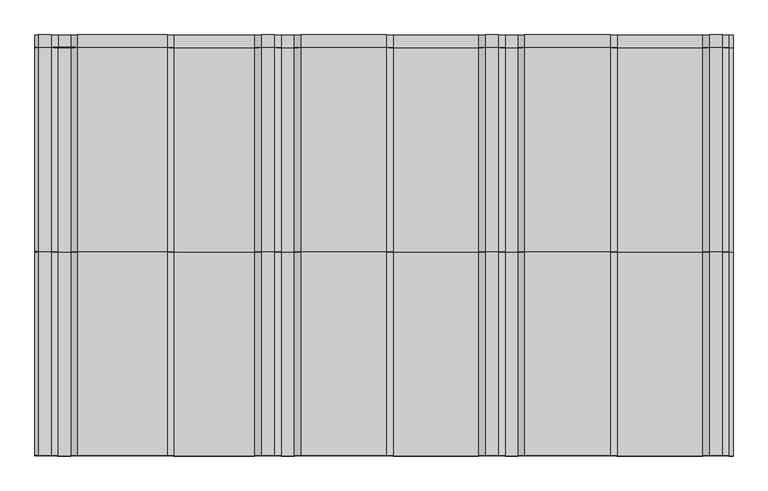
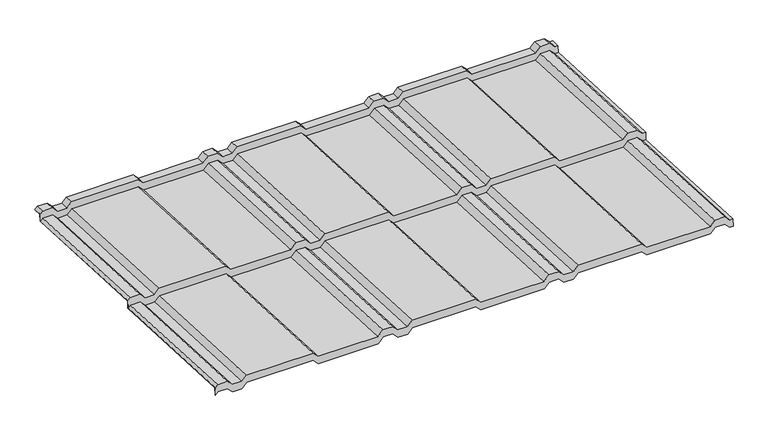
"""IFC4 building model written with IfcOpenShell, lengths in millimetres: proxy geometry, AQUAPLAST - Blachodachówka Alice : Blachodachówka Alice."""

from ifc_helpers import new_model, si_unit, origin, place, context, project, spatial, faceted_brep, source, transform, mapped, element, save


def specialty_equipment_d6476605(model_context):
    return source(origin(), model_context, "Body", "Brep", [
        faceted_brep([(-571.7598776, 0.6696996, 73.5766757), (-565.8406904, 0.9640097, 79.4885417), (-543.7088996, 0.9640097, 79.4885417), (-532.2088996, 0.3922139, 68.0027657), (-510.4160064, 0.3922139, 68.0027657), (-499.4160064, 0.939149, 78.9891601), (-345.3126919, 0.939149, 78.9891601), (-333.8126919, 0.3673532, 67.5033841), (-195.7283858, 0.3673532, 67.5033841), (-183.7283858, 0.9640097, 79.4885417), (-161.9160064, 0.9640097, 79.4885417), (-149.9160064, 0.3673532, 67.5033841), (-127.9160064, 0.3673532, 67.5033841), (-116.4160064, 0.939149, 78.9891601), (30.3015709, 0.939149, 78.9891601), (41.8015709, 0.3673532, 67.5033841), (187.7172647, 0.3673532, 67.5033841), (199.7172647, 0.9640097, 79.4885417), (221.5296441, 0.9640097, 79.4885417), (233.5296441, 0.3673532, 67.5033841), (255.5296441, 0.3673532, 67.5033841), (267.0296441, 0.939149, 78.9891601), (413.7472214, 0.939149, 78.9891601), (425.2472214, 0.3673532, 67.5033841), (571.8664164, 0.3673532, 67.5033841), (583.3664164, 0.939149, 78.9891601), (605.0839936, 0.939149, 78.9891601), (616.5839936, 0.3673532, 67.5033841), (624.2401224, 0.3673532, 67.5033841), (624.2401224, -0.4629937, 50.8240399), (616.5839936, -0.4629937, 50.8240399), (605.0839936, 0.1088021, 62.3098159), (583.3664164, 0.1088021, 62.3098159), (571.8664164, -0.4629937, 50.8240399), (425.2472214, -0.4629937, 50.8240399), (413.7472214, 0.1088021, 62.3098159), (267.0296441, 0.1088021, 62.3098159), (255.5296441, -0.4629937, 50.8240399), (233.5296441, -0.4629937, 50.8240399), (221.5296441, 0.1336628, 62.8091974), (199.7172647, 0.1336628, 62.8091974), (187.7172647, -0.4629937, 50.8240399), (41.8015709, -0.4629937, 50.8240399), (30.3015709, 0.1088021, 62.3098159), (-116.4160064, 0.1088021, 62.3098159), (-127.9160064, -0.4629937, 50.8240399), (-149.9160064, -0.4629937, 50.8240399), (-161.9160064, 0.1336628, 62.8091974), (-183.7283858, 0.1336628, 62.8091974), (-195.7283858, -0.4629937, 50.8240399), (-333.8126919, -0.4629937, 50.8240399), (-345.3126919, 0.1088021, 62.3098159), (-499.4160064, 0.1088021, 62.3098159), (-510.4160064, -0.438133, 51.3234215), (-532.2088996, -0.438133, 51.3234215), (-543.7088996, 0.1336628, 62.8091974), (-565.8406904, 0.1336628, 62.8091974), (-571.7598776, -0.1606473, 56.8973315), (-566.0477972, 699.809845, 79.1155052), (-571.7598776, 699.5258325, 73.4104899), (-571.7598776, 698.711645, 57.0557437), (-566.0477972, 698.9956575, 62.760759), (-543.5017928, 698.9956575, 62.760759), (-532.0017928, 698.4238617, 51.274983), (-510.6231132, 698.4238617, 51.274983), (-499.6231132, 698.9707968, 62.2613774), (-345.1055852, 698.9707968, 62.2613774), (-333.6055852, 698.399001, 50.7756015), (-195.9354926, 698.399001, 50.7756015), (-183.9354926, 698.9956575, 62.760759), (-161.7088996, 698.9956575, 62.760759), (-149.7088996, 698.399001, 50.7756015), (-128.1231132, 698.399001, 50.7756015), (-116.6231132, 698.9707968, 62.2613774), (30.5086777, 698.9707968, 62.2613774), (42.0086777, 698.399001, 50.7756015), (187.5101579, 698.399001, 50.7756015), (199.5101579, 698.9956575, 62.760759), (221.7367509, 698.9956575, 62.760759), (233.7367509, 698.399001, 50.7756015), (255.3225373, 698.399001, 50.7756015), (266.8225373, 698.9707968, 62.2613774), (413.9543281, 698.9707968, 62.2613774), (425.4543281, 698.399001, 50.7756015), (571.6593096, 698.399001, 50.7756015), (583.1593096, 698.9707968, 62.2613774), (605.2911004, 698.9707968, 62.2613774), (616.7911004, 698.399001, 50.7756015), (624.2401224, 698.399001, 50.7756015), (624.2401224, 699.2131885, 67.1303477), (616.7911004, 699.2131885, 67.1303477), (605.2911004, 699.7849843, 78.6161237), (583.1593096, 699.7849843, 78.6161237), (571.6593096, 699.2131885, 67.1303477), (425.4543281, 699.2131885, 67.1303477), (413.9543281, 699.7849843, 78.6161237), (266.8225373, 699.7849843, 78.6161237), (255.3225373, 699.2131885, 67.1303477), (233.7367509, 699.2131885, 67.1303477), (221.7367509, 699.809845, 79.1155052), (199.5101579, 699.809845, 79.1155052), (187.5101579, 699.2131885, 67.1303477), (42.0086777, 699.2131885, 67.1303477), (30.5086777, 699.7849843, 78.6161237), (-116.6231132, 699.7849843, 78.6161237), (-128.1231132, 699.2131885, 67.1303477), (-149.7088996, 699.2131885, 67.1303477), (-161.7088996, 699.809845, 79.1155052), (-183.9354926, 699.809845, 79.1155052), (-195.9354926, 699.2131885, 67.1303477), (-333.6055852, 699.2131885, 67.1303477), (-345.1055852, 699.7849843, 78.6161237), (-499.6231132, 699.7849843, 78.6161237), (-510.6231132, 699.2380492, 67.6297293), (-532.0017928, 699.2380492, 67.6297293), (-543.5017928, 699.809845, 79.1155052), (-510.4160064, 720.1872142, 66.0861988), (-532.2088996, 720.1872142, 66.0861988), (-543.7088996, 720.75901, 77.5719748), (-565.8406904, 720.75901, 77.5719748), (-571.7598776, 720.4646999, 71.6601089), (-571.7598776, 720.4998582, 72.3663411), (-566.0477972, 720.7838707, 78.0713564), (-543.5017928, 720.7838707, 78.0713564), (-532.0017928, 720.2120749, 66.5855804), (-510.6231132, 720.2120749, 66.5855804), (-499.6231132, 720.75901, 77.5719748), (-345.1055852, 720.75901, 77.5719748), (-333.6055852, 720.1872142, 66.0861988), (-195.9354926, 720.1872142, 66.0861988), (-183.9354926, 720.7838707, 78.0713564), (-161.7088996, 720.7838707, 78.0713564), (-149.7088996, 720.1872142, 66.0861988), (-128.1231132, 720.1872142, 66.0861988), (-116.6231132, 720.75901, 77.5719748), (30.5086777, 720.75901, 77.5719748), (42.0086777, 720.1872142, 66.0861988), (187.5101579, 720.1872142, 66.0861988), (199.5101579, 720.7838707, 78.0713564), (221.7367509, 720.7838707, 78.0713564), (233.7367509, 720.1872142, 66.0861988), (255.3225373, 720.1872142, 66.0861988), (266.8225373, 720.75901, 77.5719748), (413.9543281, 720.75901, 77.5719748), (425.4543281, 720.1872142, 66.0861988), (571.6593096, 720.1872142, 66.0861988), (583.1593096, 720.75901, 77.5719748), (605.2911004, 720.75901, 77.5719748), (616.7911004, 720.1872142, 66.0861988), (624.2401224, 720.1872142, 66.0861988), (624.2401224, 720.1623535, 65.5868173), (616.5839936, 720.1623535, 65.5868173), (605.0839936, 720.7341493, 77.0725932), (583.3664164, 720.7341493, 77.0725932), (571.8664164, 720.1623535, 65.5868173), (425.2472214, 720.1623535, 65.5868173), (413.7472214, 720.7341493, 77.0725932), (267.0296441, 720.7341493, 77.0725932), (255.5296441, 720.1623535, 65.5868173), (233.5296441, 720.1623535, 65.5868173), (221.5296441, 720.75901, 77.5719748), (199.7172647, 720.75901, 77.5719748), (187.7172647, 720.1623535, 65.5868173), (41.8015709, 720.1623535, 65.5868173), (30.3015709, 720.7341493, 77.0725932), (-116.4160064, 720.7341493, 77.0725932), (-127.9160064, 720.1623535, 65.5868173), (-149.9160064, 720.1623535, 65.5868173), (-161.9160064, 720.75901, 77.5719748), (-183.7283858, 720.75901, 77.5719748), (-195.7283858, 720.1623535, 65.5868173), (-333.8126919, 720.1623535, 65.5868173), (-345.3126919, 720.7341493, 77.0725932), (-499.4160064, 720.7341493, 77.0725932), (-571.7598776, 699.6752498, 56.2997901), (-571.7598776, 700.4894373, 72.6545364), (-565.8406904, 700.7837474, 78.5664023), (-543.7088996, 700.7837474, 78.5664023), (-532.2088996, 700.2119516, 67.0806263), (-510.4160064, 700.2119516, 67.0806263), (-499.4160064, 700.7588868, 78.0670207), (-345.3126919, 700.7588868, 78.0670207), (-333.8126919, 700.187091, 66.5812448), (-195.7283858, 700.187091, 66.5812448), (-183.7283858, 700.7837474, 78.5664023), (-161.9160064, 700.7837474, 78.5664023), (-149.9160064, 700.187091, 66.5812448), (-127.9160064, 700.187091, 66.5812448), (-116.4160064, 700.7588868, 78.0670207), (30.3015709, 700.7588868, 78.0670207), (41.8015709, 700.187091, 66.5812448), (187.7172647, 700.187091, 66.5812448), (199.7172647, 700.7837474, 78.5664023), (221.5296441, 700.7837474, 78.5664023), (233.5296441, 700.187091, 66.5812448), (255.5296441, 700.187091, 66.5812448), (267.0296441, 700.7588868, 78.0670207), (413.7472214, 700.7588868, 78.0670207), (425.2472214, 700.187091, 66.5812448), (571.8664164, 700.187091, 66.5812448), (583.3664164, 700.7588868, 78.0670207), (605.0839936, 700.7588868, 78.0670207), (616.5839936, 700.187091, 66.5812448), (624.2401224, 700.187091, 66.5812448), (624.2401224, 699.3729035, 50.2264985), (616.5839936, 699.3729035, 50.2264985), (605.0839936, 699.9446993, 61.7122745), (583.3664164, 699.9446993, 61.7122745), (571.8664164, 699.3729035, 50.2264985), (425.2472214, 699.3729035, 50.2264985), (413.7472214, 699.9446993, 61.7122745), (267.0296441, 699.9446993, 61.7122745), (255.5296441, 699.3729035, 50.2264985), (233.5296441, 699.3729035, 50.2264985), (221.5296441, 699.9695599, 62.2116561), (199.7172647, 699.9695599, 62.2116561), (187.7172647, 699.3729035, 50.2264985), (41.8015709, 699.3729035, 50.2264985), (30.3015709, 699.9446993, 61.7122745), (-116.4160064, 699.9446993, 61.7122745), (-127.9160064, 699.3729035, 50.2264985), (-149.9160064, 699.3729035, 50.2264985), (-161.9160064, 699.9695599, 62.2116561), (-183.7283858, 699.9695599, 62.2116561), (-195.7283858, 699.3729035, 50.2264985), (-333.8126919, 699.3729035, 50.2264985), (-345.3126919, 699.9446993, 61.7122745), (-499.4160064, 699.9446993, 61.7122745), (-510.4160064, 699.3977641, 50.7258801), (-532.2088996, 699.3977641, 50.7258801), (-543.7088996, 699.9695599, 62.2116561), (-565.8406904, 699.9695599, 62.2116561), (-566.0477972, 349.4285629, 80.1632399), (-571.7598776, 349.1445504, 74.4582245), (-571.7598776, 348.2744263, 56.9798698), (-566.0477972, 348.5584388, 62.6848851), (-543.5017928, 348.5584388, 62.6848851), (-532.0017928, 347.986643, 51.1991092), (-510.6231132, 347.986643, 51.1991092), (-499.6231132, 348.5335781, 62.1855036), (-345.1055852, 348.5335781, 62.1855036), (-333.6055852, 347.9617823, 50.6997276), (-195.9354926, 347.9617823, 50.6997276), (-183.9354926, 348.5584388, 62.6848851), (-161.7088996, 348.5584388, 62.6848851), (-149.7088996, 347.9617823, 50.6997276), (-128.1231132, 347.9617823, 50.6997276), (-116.6231132, 348.5335781, 62.1855036), (30.5086777, 348.5335781, 62.1855036), (42.0086777, 347.9617823, 50.6997276), (187.5101579, 347.9617823, 50.6997276), (199.5101579, 348.5584388, 62.6848851), (221.7367509, 348.5584388, 62.6848851), (233.7367509, 347.9617823, 50.6997276), (255.3225373, 347.9617823, 50.6997276), (266.8225373, 348.5335781, 62.1855036), (413.9543281, 348.5335781, 62.1855036), (425.4543281, 347.9617823, 50.6997276), (571.6593096, 347.9617823, 50.6997276), (583.1593096, 348.5335781, 62.1855036), (605.2911004, 348.5335781, 62.1855036), (616.7911004, 347.9617823, 50.6997276), (624.2401224, 347.9617823, 50.6997276), (624.2401224, 348.8319064, 68.1780823), (616.7911004, 348.8319064, 68.1780823), (605.2911004, 349.4037022, 79.6638583), (583.1593096, 349.4037022, 79.6638583), (571.6593096, 348.8319064, 68.1780823), (425.4543281, 348.8319064, 68.1780823), (413.9543281, 349.4037022, 79.6638583), (266.8225373, 349.4037022, 79.6638583), (255.3225373, 348.8319064, 68.1780823), (233.7367509, 348.8319064, 68.1780823), (221.7367509, 349.4285629, 80.1632399), (199.5101579, 349.4285629, 80.1632399), (187.5101579, 348.8319064, 68.1780823), (42.0086777, 348.8319064, 68.1780823), (30.5086777, 349.4037022, 79.6638583), (-116.6231132, 349.4037022, 79.6638583), (-128.1231132, 348.8319064, 68.1780823), (-149.7088996, 348.8319064, 68.1780823), (-161.7088996, 349.4285629, 80.1632399), (-183.9354926, 349.4285629, 80.1632399), (-195.9354926, 348.8319064, 68.1780823), (-333.6055852, 348.8319064, 68.1780823), (-345.1055852, 349.4037022, 79.6638583), (-499.6231132, 349.4037022, 79.6638583), (-510.6231132, 348.8567671, 68.6774639), (-532.0017928, 348.8567671, 68.6774639), (-543.5017928, 349.4285629, 80.1632399), (624.2401224, 349.8058088, 67.6289794), (616.5839936, 349.8058088, 67.6289794), (605.0839936, 350.3776046, 79.1147554), (583.3664164, 350.3776046, 79.1147554), (571.8664164, 349.8058088, 67.6289794), (425.2472214, 349.8058088, 67.6289794), (413.7472214, 350.3776046, 79.1147554), (267.0296441, 350.3776046, 79.1147554), (255.5296441, 349.8058088, 67.6289794), (233.5296441, 349.8058088, 67.6289794), (221.5296441, 350.4024653, 79.6141369), (199.7172647, 350.4024653, 79.6141369), (187.7172647, 349.8058088, 67.6289794), (41.8015709, 349.8058088, 67.6289794), (30.3015709, 350.3776046, 79.1147554), (-116.4160064, 350.3776046, 79.1147554), (-127.9160064, 349.8058088, 67.6289794), (-149.9160064, 349.8058088, 67.6289794), (-161.9160064, 350.4024653, 79.6141369), (-183.7283858, 350.4024653, 79.6141369), (-195.7283858, 349.8058088, 67.6289794), (-333.8126919, 349.8058088, 67.6289794), (-345.3126919, 350.3776046, 79.1147554), (-499.4160064, 350.3776046, 79.1147554), (-510.4160064, 349.8306695, 68.128361), (-532.2088996, 349.8306695, 68.128361), (-543.7088996, 350.4024653, 79.6141369), (-565.8406904, 350.4024653, 79.6141369), (-571.7598776, 350.1081552, 73.702271), (-566.0477972, -0.0098927, 80.0376446), (-571.7598776, -0.2939052, 74.3326293), (-571.7598776, -1.1594105, 56.9470529), (-565.8406904, -0.8651003, 62.8589188), (-543.7088996, -0.8651003, 62.8589188), (-532.2088996, -1.4368961, 51.3731429), (-510.4160064, -1.4368961, 51.3731429), (-499.4160064, -0.889961, 62.3595373), (-345.3126919, -0.889961, 62.3595373), (-333.8126919, -1.4617568, 50.8737613), (-195.7283858, -1.4617568, 50.8737613), (-183.7283858, -0.8651003, 62.8589188), (-161.9160064, -0.8651003, 62.8589188), (-149.9160064, -1.4617568, 50.8737613), (-127.9160064, -1.4617568, 50.8737613), (-116.4160064, -0.889961, 62.3595373), (30.3015709, -0.889961, 62.3595373), (41.8015709, -1.4617568, 50.8737613), (187.7172647, -1.4617568, 50.8737613), (199.7172647, -0.8651003, 62.8589188), (221.5296441, -0.8651003, 62.8589188), (233.5296441, -1.4617568, 50.8737613), (255.5296441, -1.4617568, 50.8737613), (267.0296441, -0.889961, 62.3595373), (413.7472214, -0.889961, 62.3595373), (425.2472214, -1.4617568, 50.8737613), (571.8664164, -1.4617568, 50.8737613), (583.3664164, -0.889961, 62.3595373), (605.0839936, -0.889961, 62.3595373), (616.5839936, -1.4617568, 50.8737613), (624.2401224, -1.4617568, 50.8737613), (624.2401224, -0.6065492, 68.0524871), (616.7911004, -0.6065492, 68.0524871), (605.2911004, -0.0347534, 79.538263), (583.1593096, -0.0347534, 79.538263), (571.6593096, -0.6065492, 68.0524871), (425.4543281, -0.6065492, 68.0524871), (413.9543281, -0.0347534, 79.538263), (266.8225373, -0.0347534, 79.538263), (255.3225373, -0.6065492, 68.0524871), (233.7367509, -0.6065492, 68.0524871), (221.7367509, -0.0098927, 80.0376446), (199.5101579, -0.0098927, 80.0376446), (187.5101579, -0.6065492, 68.0524871), (42.0086777, -0.6065492, 68.0524871), (30.5086777, -0.0347534, 79.538263), (-116.6231132, -0.0347534, 79.538263), (-128.1231132, -0.6065492, 68.0524871), (-149.7088996, -0.6065492, 68.0524871), (-161.7088996, -0.0098927, 80.0376446), (-183.9354926, -0.0098927, 80.0376446), (-195.9354926, -0.6065492, 68.0524871), (-333.6055852, -0.6065492, 68.0524871), (-345.1055852, -0.0347534, 79.538263), (-499.6231132, -0.0347534, 79.538263), (-510.6231132, -0.5816885, 68.5518686), (-532.0017928, -0.5816885, 68.5518686), (-543.5017928, -0.0098927, 80.0376446), (-510.4160064, 348.9605455, 50.6500062), (-532.2088996, 348.9605455, 50.6500062), (-543.7088996, 349.5323413, 62.1357822), (-565.8406904, 349.5323413, 62.1357822), (-571.7598776, 349.2380311, 56.2239163), (624.2401224, 348.9356848, 50.1506247), (616.5839936, 348.9356848, 50.1506247), (605.0839936, 349.5074806, 61.6364006), (583.3664164, 349.5074806, 61.6364006), (571.8664164, 348.9356848, 50.1506247), (425.2472214, 348.9356848, 50.1506247), (413.7472214, 349.5074806, 61.6364006), (267.0296441, 349.5074806, 61.6364006), (255.5296441, 348.9356848, 50.1506247), (233.5296441, 348.9356848, 50.1506247), (221.5296441, 349.5323413, 62.1357822), (199.7172647, 349.5323413, 62.1357822), (187.7172647, 348.9356848, 50.1506247), (41.8015709, 348.9356848, 50.1506247), (30.3015709, 349.5074806, 61.6364006), (-116.4160064, 349.5074806, 61.6364006), (-127.9160064, 348.9356848, 50.1506247), (-149.9160064, 348.9356848, 50.1506247), (-161.9160064, 349.5323413, 62.1357822), (-183.7283858, 349.5323413, 62.1357822), (-195.7283858, 348.9356848, 50.1506247), (-333.8126919, 348.9356848, 50.1506247), (-345.3126919, 349.5074806, 61.6364006), (-499.4160064, 349.5074806, 61.6364006), (616.5839936, 347.9369216, 50.200346), (605.0839936, 348.5087174, 61.686122), (583.3664164, 348.5087174, 61.686122), (571.8664164, 347.9369216, 50.200346), (425.2472214, 347.9369216, 50.200346), (413.7472214, 348.5087174, 61.686122), (267.0296441, 348.5087174, 61.686122), (255.5296441, 347.9369216, 50.200346), (233.5296441, 347.9369216, 50.200346), (221.5296441, 348.5335781, 62.1855036), (199.7172647, 348.5335781, 62.1855036), (187.7172647, 347.9369216, 50.200346), (41.8015709, 347.9369216, 50.200346), (30.3015709, 348.5087174, 61.686122), (-116.4160064, 348.5087174, 61.686122), (-127.9160064, 347.9369216, 50.200346), (-149.9160064, 347.9369216, 50.200346), (-161.9160064, 348.5335781, 62.1855036), (-183.7283858, 348.5335781, 62.1855036), (-195.7283858, 347.9369216, 50.200346), (-333.8126919, 347.9369216, 50.200346), (-345.3126919, 348.5087174, 61.686122), (-499.4160064, 348.5087174, 61.686122), (-510.4160064, 347.9617823, 50.6997276), (-532.2088996, 347.9617823, 50.6997276), (-543.7088996, 348.5335781, 62.1855036), (-565.8406904, 348.5335781, 62.1855036), (-566.0477972, 700.8086081, 79.0657839), (-543.5017928, 700.8086081, 79.0657839), (-532.0017928, 700.2368123, 67.5800079), (-510.6231132, 700.2368123, 67.5800079), (-499.6231132, 700.7837474, 78.5664023), (-345.1055852, 700.7837474, 78.5664023), (-333.6055852, 700.2119516, 67.0806263), (-195.9354926, 700.2119516, 67.0806263), (-183.9354926, 700.8086081, 79.0657839), (-161.7088996, 700.8086081, 79.0657839), (-149.7088996, 700.2119516, 67.0806263), (-128.1231132, 700.2119516, 67.0806263), (-116.6231132, 700.7837474, 78.5664023), (30.5086777, 700.7837474, 78.5664023), (42.0086777, 700.2119516, 67.0806263), (187.5101579, 700.2119516, 67.0806263), (199.5101579, 700.8086081, 79.0657839), (221.7367509, 700.8086081, 79.0657839), (233.7367509, 700.2119516, 67.0806263), (255.3225373, 700.2119516, 67.0806263), (266.8225373, 700.7837474, 78.5664023), (413.9543281, 700.7837474, 78.5664023), (425.4543281, 700.2119516, 67.0806263), (571.6593096, 700.2119516, 67.0806263), (583.1593096, 700.7837474, 78.5664023), (605.2911004, 700.7837474, 78.5664023), (616.7911004, 700.2119516, 67.0806263)], [[[0, 1, 2, 3, 4, 5, 6, 7, 8, 9, 10, 11, 12, 13, 14, 15, 16, 17, 18, 19, 20, 21, 22, 23, 24, 25, 26, 27, 28, 29, 30, 31, 32, 33, 34, 35, 36, 37, 38, 39, 40, 41, 42, 43, 44, 45, 46, 47, 48, 49, 50, 51, 52, 53, 54, 55, 56, 57]], [[58, 59, 60, 61, 62, 63, 64, 65, 66, 67, 68, 69, 70, 71, 72, 73, 74, 75, 76, 77, 78, 79, 80, 81, 82, 83, 84, 85, 86, 87, 88, 89, 90, 91, 92, 93, 94, 95, 96, 97, 98, 99, 100, 101, 102, 103, 104, 105, 106, 107, 108, 109, 110, 111, 112, 113, 114, 115]], [[116, 117, 118, 119, 120, 121, 122, 123, 124, 125, 126, 127, 128, 129, 130, 131, 132, 133, 134, 135, 136, 137, 138, 139, 140, 141, 142, 143, 144, 145, 146, 147, 148, 149, 150, 151, 152, 153, 154, 155, 156, 157, 158, 159, 160, 161, 162, 163, 164, 165, 166, 167, 168, 169, 170, 171, 172, 173]], [[174, 175, 176, 177, 178, 179, 180, 181, 182, 183, 184, 185, 186, 187, 188, 189, 190, 191, 192, 193, 194, 195, 196, 197, 198, 199, 200, 201, 202, 203, 204, 205, 206, 207, 208, 209, 210, 211, 212, 213, 214, 215, 216, 217, 218, 219, 220, 221, 222, 223, 224, 225, 226, 227, 228, 229, 230, 231]], [[232, 233, 234, 235, 236, 237, 238, 239, 240, 241, 242, 243, 244, 245, 246, 247, 248, 249, 250, 251, 252, 253, 254, 255, 256, 257, 258, 259, 260, 261, 262, 263, 264, 265, 266, 267, 268, 269, 270, 271, 272, 273, 274, 275, 276, 277, 278, 279, 280, 281, 282, 283, 284, 285, 286, 287, 288, 289]], [[287, 64, 63, 288]], [[286, 65, 64, 287]], [[285, 66, 65, 286]], [[284, 67, 66, 285]], [[283, 68, 67, 284]], [[282, 69, 68, 283]], [[281, 70, 69, 282]], [[280, 71, 70, 281]], [[279, 72, 71, 280]], [[278, 73, 72, 279]], [[277, 74, 73, 278]], [[276, 75, 74, 277]], [[275, 76, 75, 276]], [[274, 77, 76, 275]], [[273, 78, 77, 274]], [[272, 79, 78, 273]], [[271, 80, 79, 272]], [[270, 81, 80, 271]], [[269, 82, 81, 270]], [[268, 83, 82, 269]], [[267, 84, 83, 268]], [[266, 85, 84, 267]], [[265, 86, 85, 266]], [[264, 87, 86, 265]], [[264, 263, 88, 87]], [[205, 204, 290, 291]], [[205, 291, 292, 206]], [[206, 292, 293, 207]], [[207, 293, 294, 208]], [[208, 294, 295, 209]], [[209, 295, 296, 210]], [[210, 296, 297, 211]], [[211, 297, 298, 212]], [[212, 298, 299, 213]], [[213, 299, 300, 214]], [[214, 300, 301, 215]], [[215, 301, 302, 216]], [[216, 302, 303, 217]], [[217, 303, 304, 218]], [[218, 304, 305, 219]], [[219, 305, 306, 220]], [[220, 306, 307, 221]], [[221, 307, 308, 222]], [[222, 308, 309, 223]], [[223, 309, 310, 224]], [[224, 310, 311, 225]], [[225, 311, 312, 226]], [[226, 312, 313, 227]], [[227, 313, 314, 228]], [[228, 314, 315, 229]], [[229, 315, 316, 230]], [[230, 316, 317, 231]], [[231, 317, 318, 174]], [[61, 60, 233, 232]], [[289, 62, 61, 232]], [[288, 63, 62, 289]], [[319, 320, 321, 322, 323, 324, 325, 326, 327, 328, 329, 330, 331, 332, 333, 334, 335, 336, 337, 338, 339, 340, 341, 342, 343, 344, 345, 346, 347, 348, 349, 350, 351, 352, 353, 354, 355, 356, 357, 358, 359, 360, 361, 362, 363, 364, 365, 366, 367, 368, 369, 370, 371, 372, 373, 374, 375, 376]], [[377, 378, 379, 380, 381, 318, 317, 316, 315, 314, 313, 312, 311, 310, 309, 308, 307, 306, 305, 304, 303, 302, 301, 300, 299, 298, 297, 296, 295, 294, 293, 292, 291, 290, 382, 383, 384, 385, 386, 387, 388, 389, 390, 391, 392, 393, 394, 395, 396, 397, 398, 399, 400, 401, 402, 403, 404, 405]], [[374, 238, 237, 375]], [[373, 239, 238, 374]], [[372, 240, 239, 373]], [[371, 241, 240, 372]], [[370, 242, 241, 371]], [[369, 243, 242, 370]], [[368, 244, 243, 369]], [[367, 245, 244, 368]], [[366, 246, 245, 367]], [[365, 247, 246, 366]], [[364, 248, 247, 365]], [[363, 249, 248, 364]], [[362, 250, 249, 363]], [[361, 251, 250, 362]], [[360, 252, 251, 361]], [[359, 253, 252, 360]], [[358, 254, 253, 359]], [[357, 255, 254, 358]], [[356, 256, 255, 357]], [[355, 257, 256, 356]], [[354, 258, 257, 355]], [[353, 259, 258, 354]], [[352, 260, 259, 353]], [[351, 261, 260, 352]], [[351, 350, 262, 261]], [[383, 382, 28, 27, 406]], [[383, 406, 27, 26, 407, 384]], [[384, 407, 26, 25, 408, 385]], [[385, 408, 25, 24, 409, 386]], [[386, 409, 24, 23, 410, 387]], [[387, 410, 23, 22, 411, 388]], [[388, 411, 22, 21, 412, 389]], [[389, 412, 21, 20, 413, 390]], [[390, 413, 20, 19, 414, 391]], [[391, 414, 19, 18, 415, 392]], [[392, 415, 18, 17, 416, 393]], [[393, 416, 17, 16, 417, 394]], [[394, 417, 16, 15, 418, 395]], [[395, 418, 15, 14, 419, 396]], [[396, 419, 14, 13, 420, 397]], [[397, 420, 13, 12, 421, 398]], [[398, 421, 12, 11, 422, 399]], [[399, 422, 11, 10, 423, 400]], [[400, 423, 10, 9, 424, 401]], [[401, 424, 9, 8, 425, 402]], [[402, 425, 8, 7, 426, 403]], [[403, 426, 7, 6, 427, 404]], [[404, 427, 6, 5, 428, 405]], [[405, 428, 5, 4, 429, 377]], [[377, 429, 4, 3, 430, 378]], [[378, 430, 3, 2, 431, 379]], [[379, 431, 2, 1, 432, 380]], [[432, 1, 0, 381, 380]], [[235, 234, 320, 319]], [[376, 236, 235, 319]], [[375, 237, 236, 376]], [[30, 29, 349, 348]], [[347, 31, 30, 348]], [[346, 32, 31, 347]], [[345, 33, 32, 346]], [[344, 34, 33, 345]], [[343, 35, 34, 344]], [[342, 36, 35, 343]], [[341, 37, 36, 342]], [[340, 38, 37, 341]], [[339, 39, 38, 340]], [[338, 40, 39, 339]], [[337, 41, 40, 338]], [[336, 42, 41, 337]], [[335, 43, 42, 336]], [[334, 44, 43, 335]], [[333, 45, 44, 334]], [[332, 46, 45, 333]], [[331, 47, 46, 332]], [[330, 48, 47, 331]], [[329, 49, 48, 330]], [[328, 50, 49, 329]], [[327, 51, 50, 328]], [[326, 52, 51, 327]], [[325, 53, 52, 326]], [[324, 54, 53, 325]], [[323, 55, 54, 324]], [[322, 56, 55, 323]], [[321, 57, 56, 322]], [[116, 179, 178, 117]], [[117, 178, 177, 118]], [[118, 177, 176, 119]], [[176, 175, 120, 119]], [[122, 121, 59, 58, 433]], [[115, 434, 123, 122, 433, 58]], [[114, 435, 124, 123, 434, 115]], [[113, 436, 125, 124, 435, 114]], [[112, 437, 126, 125, 436, 113]], [[111, 438, 127, 126, 437, 112]], [[110, 439, 128, 127, 438, 111]], [[109, 440, 129, 128, 439, 110]], [[108, 441, 130, 129, 440, 109]], [[107, 442, 131, 130, 441, 108]], [[106, 443, 132, 131, 442, 107]], [[105, 444, 133, 132, 443, 106]], [[104, 445, 134, 133, 444, 105]], [[103, 446, 135, 134, 445, 104]], [[102, 447, 136, 135, 446, 103]], [[101, 448, 137, 136, 447, 102]], [[100, 449, 138, 137, 448, 101]], [[99, 450, 139, 138, 449, 100]], [[98, 451, 140, 139, 450, 99]], [[97, 452, 141, 140, 451, 98]], [[96, 453, 142, 141, 452, 97]], [[95, 454, 143, 142, 453, 96]], [[94, 455, 144, 143, 454, 95]], [[93, 456, 145, 144, 455, 94]], [[92, 457, 146, 145, 456, 93]], [[91, 458, 147, 146, 457, 92]], [[90, 459, 148, 147, 458, 91]], [[459, 90, 89, 149, 148]], [[151, 150, 203, 202]], [[151, 202, 201, 152]], [[152, 201, 200, 153]], [[153, 200, 199, 154]], [[154, 199, 198, 155]], [[155, 198, 197, 156]], [[156, 197, 196, 157]], [[157, 196, 195, 158]], [[158, 195, 194, 159]], [[159, 194, 193, 160]], [[160, 193, 192, 161]], [[161, 192, 191, 162]], [[162, 191, 190, 163]], [[163, 190, 189, 164]], [[164, 189, 188, 165]], [[165, 188, 187, 166]], [[166, 187, 186, 167]], [[167, 186, 185, 168]], [[168, 185, 184, 169]], [[169, 184, 183, 170]], [[170, 183, 182, 171]], [[171, 182, 181, 172]], [[172, 181, 180, 173]], [[173, 180, 179, 116]], [[321, 320, 234, 233, 60, 59, 121, 120, 175, 174, 318, 381, 0, 57]], [[88, 263, 262, 350, 349, 29, 28, 382, 290, 204, 203, 150, 149, 89]]]),
    ])


if __name__ == "__main__":
    model = new_model("IFC4")
    model_context = context("Model", 3, world=origin())
    ifc_project = project(units=[si_unit("LENGTHUNIT", "METRE", prefix="MILLI")], contexts=[model_context])
    site = spatial("IfcSite", under=ifc_project)
    building = spatial("IfcBuilding", under=site)
    placement = place(None, origin())
    specialty_equipment_shape = specialty_equipment_d6476605(model_context)
    element("IfcBuildingElementProxy", 1, Name="AQUAPLAST - Blachodachówka Alice : Blachodachówka Alice", ObjectType="AQUAPLAST - Blachodachówka Alice : Blachodachówka Alice", at=placement, inside=building, context=model_context, shape_type="MappedRepresentation", body=[
        mapped(specialty_equipment_shape, transform((0.0, 0.0, 0.0), x_axis=(1.0, 0.0, 0.0), y_axis=(0.0, 1.0, 0.0), z_axis=(0.0, 0.0, 1.0))),
    ])
    save(model, "model.ifc")
